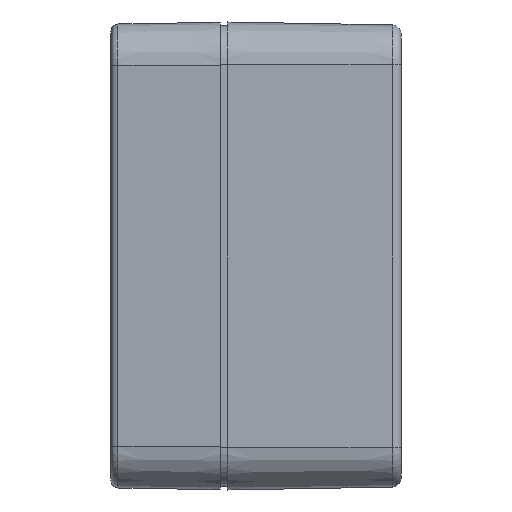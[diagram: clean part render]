
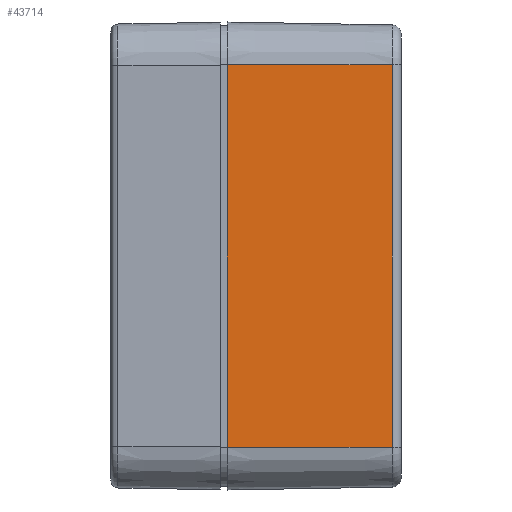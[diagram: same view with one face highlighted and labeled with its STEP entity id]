
A CAD part, left-side view. The second image highlights one B-rep face of the part: STEP entity #43714.
In plain terms, the highlighted planar face has unit normal (-1, -0.018, 0).
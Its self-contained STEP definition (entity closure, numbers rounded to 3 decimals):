
#115 = CARTESIAN_POINT ( 'NONE',  ( -57.55, 0., 26.6 ) ) ;
#598 = CARTESIAN_POINT ( 'NONE',  ( -57.533, -1., 26.6 ) ) ;
#3198 = EDGE_CURVE ( 'NONE', #39574, #39215, #46109, .T. ) ;
#5662 = VECTOR ( 'NONE', #7047, 1000. ) ;
#7047 = DIRECTION ( 'NONE',  ( 0., 0., 1. ) ) ;
#7277 = CARTESIAN_POINT ( 'NONE',  ( -57.132, -23.972, 26.6 ) ) ;
#10222 = CARTESIAN_POINT ( 'NONE',  ( -57.533, -1., 26.6 ) ) ;
#11084 = DIRECTION ( 'NONE',  ( 0., 0., -1. ) ) ;
#11150 = EDGE_CURVE ( 'NONE', #26868, #39574, #42994, .T. ) ;
#11783 = VECTOR ( 'NONE', #21541, 1000. ) ;
#14515 = LINE ( 'NONE', #7277, #5662 ) ;
#15594 = CARTESIAN_POINT ( 'NONE',  ( -57.132, -23.972, 26.6 ) ) ;
#18270 = CARTESIAN_POINT ( 'NONE',  ( -57.55, 0., 26.6 ) ) ;
#19380 = VERTEX_POINT ( 'NONE', #42158 ) ;
#21284 = AXIS2_PLACEMENT_3D ( 'NONE', #115, #42808, #25318 ) ;
#21541 = DIRECTION ( 'NONE',  ( -0.017, 1., 0. ) ) ;
#22141 = EDGE_CURVE ( 'NONE', #19380, #39215, #26323, .T. ) ;
#25318 = DIRECTION ( 'NONE',  ( 0.017, -1., 0. ) ) ;
#26323 = LINE ( 'NONE', #37272, #34599 ) ;
#26868 = VERTEX_POINT ( 'NONE', #15594 ) ;
#32082 = PLANE ( 'NONE',  #21284 ) ;
#32212 = ORIENTED_EDGE ( 'NONE', *, *, #11150, .T. ) ;
#32310 = FACE_OUTER_BOUND ( 'NONE', #37506, .T. ) ;
#33779 = DIRECTION ( 'NONE',  ( -0.017, 1., 0. ) ) ;
#34356 = ORIENTED_EDGE ( 'NONE', *, *, #3198, .T. ) ;
#34599 = VECTOR ( 'NONE', #33779, 1000. ) ;
#37272 = CARTESIAN_POINT ( 'NONE',  ( -57.55, 0., -26.6 ) ) ;
#37506 = EDGE_LOOP ( 'NONE', ( #45238, #38738, #32212, #34356 ) ) ;
#38738 = ORIENTED_EDGE ( 'NONE', *, *, #43863, .T. ) ;
#39215 = VERTEX_POINT ( 'NONE', #42306 ) ;
#39574 = VERTEX_POINT ( 'NONE', #10222 ) ;
#42158 = CARTESIAN_POINT ( 'NONE',  ( -57.132, -23.972, -26.6 ) ) ;
#42306 = CARTESIAN_POINT ( 'NONE',  ( -57.533, -1., -26.6 ) ) ;
#42808 = DIRECTION ( 'NONE',  ( -1., -0.017, 0. ) ) ;
#42994 = LINE ( 'NONE', #18270, #11783 ) ;
#43714 = ADVANCED_FACE ( 'NONE', ( #32310 ), #32082, .T. ) ;
#43863 = EDGE_CURVE ( 'NONE', #19380, #26868, #14515, .T. ) ;
#44179 = VECTOR ( 'NONE', #11084, 1000. ) ;
#45238 = ORIENTED_EDGE ( 'NONE', *, *, #22141, .F. ) ;
#46109 = LINE ( 'NONE', #598, #44179 ) ;
